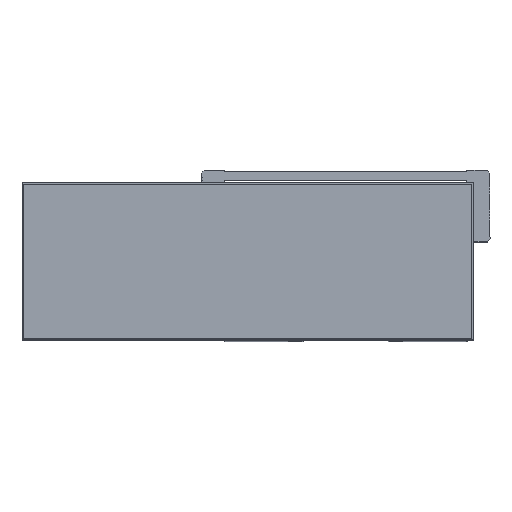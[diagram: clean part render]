
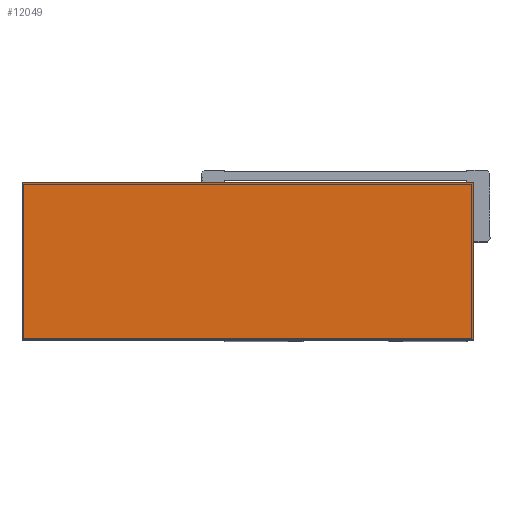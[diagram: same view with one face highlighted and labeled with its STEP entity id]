
A CAD part, top view. The second image highlights one B-rep face of the part: STEP entity #12049.
In plain terms, the highlighted planar face has unit normal (0, 0, 1).
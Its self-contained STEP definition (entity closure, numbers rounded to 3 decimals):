
#580 = CARTESIAN_POINT ( 'NONE',  ( 0., 0., 70. ) ) ;
#1137 = ORIENTED_EDGE ( 'NONE', *, *, #19236, .T. ) ;
#1869 = CARTESIAN_POINT ( 'NONE',  ( 313., 109., 70. ) ) ;
#5717 = ORIENTED_EDGE ( 'NONE', *, *, #5968, .T. ) ;
#5968 = EDGE_CURVE ( 'NONE', #28869, #33609, #31028, .T. ) ;
#8508 = DIRECTION ( 'NONE',  ( 0., 0., -1. ) ) ;
#8525 = VECTOR ( 'NONE', #32086, 1000. ) ;
#8992 = EDGE_CURVE ( 'NONE', #33609, #23373, #16497, .T. ) ;
#11149 = CARTESIAN_POINT ( 'NONE',  ( 0., 109., 70. ) ) ;
#11335 = PLANE ( 'NONE',  #20394 ) ;
#12049 = ADVANCED_FACE ( 'NONE', ( #19202 ), #11335, .F. ) ;
#14553 = LINE ( 'NONE', #580, #37391 ) ;
#15422 = LINE ( 'NONE', #25169, #35448 ) ;
#16346 = CARTESIAN_POINT ( 'NONE',  ( 0., 0., 70. ) ) ;
#16406 = ORIENTED_EDGE ( 'NONE', *, *, #34039, .T. ) ;
#16497 = LINE ( 'NONE', #11149, #8525 ) ;
#16748 = EDGE_LOOP ( 'NONE', ( #16406, #1137, #5717, #33534 ) ) ;
#18093 = DIRECTION ( 'NONE',  ( 0., 1., 0. ) ) ;
#19202 = FACE_OUTER_BOUND ( 'NONE', #16748, .T. ) ;
#19204 = CARTESIAN_POINT ( 'NONE',  ( 0., 109., 70. ) ) ;
#19236 = EDGE_CURVE ( 'NONE', #31992, #28869, #14553, .T. ) ;
#20394 = AXIS2_PLACEMENT_3D ( 'NONE', #23444, #8508, #29397 ) ;
#23373 = VERTEX_POINT ( 'NONE', #19204 ) ;
#23444 = CARTESIAN_POINT ( 'NONE',  ( 0., 0., 70. ) ) ;
#25169 = CARTESIAN_POINT ( 'NONE',  ( 0., 0., 70. ) ) ;
#27568 = DIRECTION ( 'NONE',  ( 1., 0., 0. ) ) ;
#28180 = DIRECTION ( 'NONE',  ( 0., -1., 0. ) ) ;
#28869 = VERTEX_POINT ( 'NONE', #36830 ) ;
#29397 = DIRECTION ( 'NONE',  ( -1., 0., 0. ) ) ;
#31028 = LINE ( 'NONE', #35857, #37958 ) ;
#31992 = VERTEX_POINT ( 'NONE', #16346 ) ;
#32086 = DIRECTION ( 'NONE',  ( -1., 0., 0. ) ) ;
#33534 = ORIENTED_EDGE ( 'NONE', *, *, #8992, .T. ) ;
#33609 = VERTEX_POINT ( 'NONE', #1869 ) ;
#34039 = EDGE_CURVE ( 'NONE', #23373, #31992, #15422, .T. ) ;
#35448 = VECTOR ( 'NONE', #28180, 1000. ) ;
#35857 = CARTESIAN_POINT ( 'NONE',  ( 313., 0., 70. ) ) ;
#36830 = CARTESIAN_POINT ( 'NONE',  ( 313., 0., 70. ) ) ;
#37391 = VECTOR ( 'NONE', #27568, 1000. ) ;
#37958 = VECTOR ( 'NONE', #18093, 1000. ) ;
